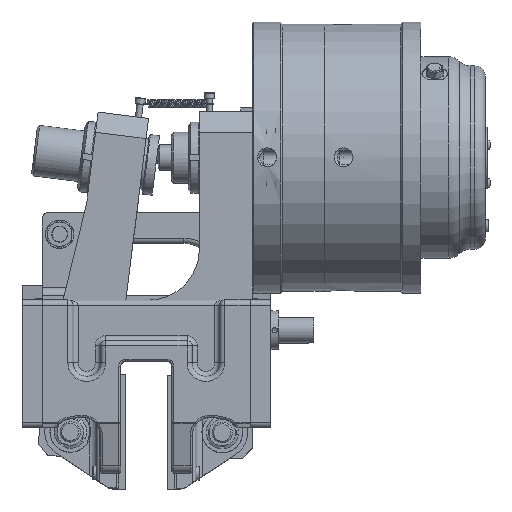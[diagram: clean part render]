
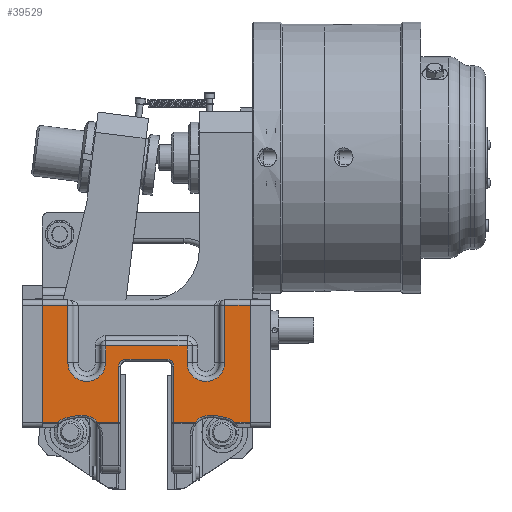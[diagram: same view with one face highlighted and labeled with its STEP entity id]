
A CAD part, top view. The second image highlights one B-rep face of the part: STEP entity #39529.
In plain terms, the highlighted planar face has unit normal (0, 0, 1).
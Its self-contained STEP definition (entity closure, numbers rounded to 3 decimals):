
#5074=LINE('',#64647,#7622);
#5076=LINE('',#64664,#7624);
#5079=LINE('',#64676,#7627);
#5081=LINE('',#64686,#7629);
#5083=LINE('',#64695,#7631);
#5084=LINE('',#64698,#7632);
#5086=LINE('',#64709,#7634);
#5117=LINE('',#64967,#7665);
#5118=LINE('',#64975,#7666);
#5119=LINE('',#64983,#7667);
#5125=LINE('',#65018,#7673);
#5126=LINE('',#65026,#7674);
#5130=LINE('',#65092,#7678);
#5142=LINE('',#65180,#7690);
#5143=LINE('',#65186,#7691);
#5144=LINE('',#65188,#7692);
#5145=LINE('',#65190,#7693);
#5146=LINE('',#65191,#7694);
#7622=VECTOR('',#50241,5.);
#7624=VECTOR('',#50261,10.);
#7627=VECTOR('',#50276,10.);
#7629=VECTOR('',#50288,10.);
#7631=VECTOR('',#50296,5.);
#7632=VECTOR('',#50299,10.);
#7634=VECTOR('',#50313,10.);
#7665=VECTOR('',#50446,10.);
#7666=VECTOR('',#50457,10.);
#7667=VECTOR('',#50468,10.);
#7673=VECTOR('',#50504,10.);
#7674=VECTOR('',#50507,10.);
#7678=VECTOR('',#50547,10.);
#7690=VECTOR('',#50581,10.);
#7691=VECTOR('',#50586,10.);
#7692=VECTOR('',#50589,10.);
#7693=VECTOR('',#50590,10.);
#7694=VECTOR('',#50591,10.);
#10096=FACE_OUTER_BOUND('',#12418,.T.);
#12418=EDGE_LOOP('',(#31009,#31010,#31011,#31012,#31013,#31014,#31015,#31016,
#31017,#31018,#31019,#31020,#31021,#31022,#31023,#31024,#31025,#31026,#31027,
#31028,#31029,#31030,#31031,#31032,#31033,#31034));
#14904=CIRCLE('',#42719,18.5);
#14913=CIRCLE('',#42734,18.5);
#14940=CIRCLE('',#42791,7.);
#14943=CIRCLE('',#42796,7.);
#14961=CIRCLE('',#42830,20.);
#14964=CIRCLE('',#42835,18.);
#14967=CIRCLE('',#42845,18.);
#14968=CIRCLE('',#42846,20.);
#18021=VERTEX_POINT('',#64644);
#18022=VERTEX_POINT('',#64646);
#18024=VERTEX_POINT('',#64652);
#18028=VERTEX_POINT('',#64663);
#18030=VERTEX_POINT('',#64669);
#18032=VERTEX_POINT('',#64678);
#18035=VERTEX_POINT('',#64688);
#18038=VERTEX_POINT('',#64693);
#18039=VERTEX_POINT('',#64697);
#18041=VERTEX_POINT('',#64703);
#18063=VERTEX_POINT('',#64962);
#18064=VERTEX_POINT('',#64966);
#18065=VERTEX_POINT('',#64970);
#18066=VERTEX_POINT('',#64974);
#18067=VERTEX_POINT('',#64978);
#18068=VERTEX_POINT('',#64982);
#18077=VERTEX_POINT('',#65011);
#18078=VERTEX_POINT('',#65016);
#18079=VERTEX_POINT('',#65020);
#18083=VERTEX_POINT('',#65086);
#18084=VERTEX_POINT('',#65090);
#18093=VERTEX_POINT('',#65175);
#18094=VERTEX_POINT('',#65182);
#18095=VERTEX_POINT('',#65183);
#18096=VERTEX_POINT('',#65185);
#18097=VERTEX_POINT('',#65189);
#22722=EDGE_CURVE('',#18021,#18022,#5074,.T.);
#22730=EDGE_CURVE('',#18022,#18028,#5076,.T.);
#22733=EDGE_CURVE('',#18028,#18030,#14904,.T.);
#22737=EDGE_CURVE('',#18030,#18024,#5079,.T.);
#22742=EDGE_CURVE('',#18024,#18032,#5081,.T.);
#22746=EDGE_CURVE('',#18038,#18035,#5083,.T.);
#22747=EDGE_CURVE('',#18032,#18039,#5084,.T.);
#22750=EDGE_CURVE('',#18039,#18041,#14913,.T.);
#22753=EDGE_CURVE('',#18041,#18038,#5086,.T.);
#22809=EDGE_CURVE('',#18063,#18064,#5117,.T.);
#22811=EDGE_CURVE('',#18064,#18065,#14940,.T.);
#22813=EDGE_CURVE('',#18065,#18066,#5118,.T.);
#22815=EDGE_CURVE('',#18066,#18067,#14943,.T.);
#22817=EDGE_CURVE('',#18067,#18068,#5119,.T.);
#22833=EDGE_CURVE('',#18078,#18077,#5125,.T.);
#22835=EDGE_CURVE('',#18079,#18063,#5126,.T.);
#22848=EDGE_CURVE('',#18083,#18079,#14961,.T.);
#22850=EDGE_CURVE('',#18084,#18083,#5130,.T.);
#22852=EDGE_CURVE('',#18077,#18084,#14964,.T.);
#22869=EDGE_CURVE('',#18068,#18093,#5142,.T.);
#22870=EDGE_CURVE('',#18094,#18095,#14967,.T.);
#22871=EDGE_CURVE('',#18096,#18094,#5143,.T.);
#22872=EDGE_CURVE('',#18093,#18096,#14968,.T.);
#22873=EDGE_CURVE('',#18078,#18035,#5144,.T.);
#22874=EDGE_CURVE('',#18021,#18097,#5145,.T.);
#22875=EDGE_CURVE('',#18095,#18097,#5146,.T.);
#31009=ORIENTED_EDGE('',*,*,#22870,.F.);
#31010=ORIENTED_EDGE('',*,*,#22871,.F.);
#31011=ORIENTED_EDGE('',*,*,#22872,.F.);
#31012=ORIENTED_EDGE('',*,*,#22869,.F.);
#31013=ORIENTED_EDGE('',*,*,#22817,.F.);
#31014=ORIENTED_EDGE('',*,*,#22815,.F.);
#31015=ORIENTED_EDGE('',*,*,#22813,.F.);
#31016=ORIENTED_EDGE('',*,*,#22811,.F.);
#31017=ORIENTED_EDGE('',*,*,#22809,.F.);
#31018=ORIENTED_EDGE('',*,*,#22835,.F.);
#31019=ORIENTED_EDGE('',*,*,#22848,.F.);
#31020=ORIENTED_EDGE('',*,*,#22850,.F.);
#31021=ORIENTED_EDGE('',*,*,#22852,.F.);
#31022=ORIENTED_EDGE('',*,*,#22833,.F.);
#31023=ORIENTED_EDGE('',*,*,#22873,.T.);
#31024=ORIENTED_EDGE('',*,*,#22746,.F.);
#31025=ORIENTED_EDGE('',*,*,#22753,.F.);
#31026=ORIENTED_EDGE('',*,*,#22750,.F.);
#31027=ORIENTED_EDGE('',*,*,#22747,.F.);
#31028=ORIENTED_EDGE('',*,*,#22742,.F.);
#31029=ORIENTED_EDGE('',*,*,#22737,.F.);
#31030=ORIENTED_EDGE('',*,*,#22733,.F.);
#31031=ORIENTED_EDGE('',*,*,#22730,.F.);
#31032=ORIENTED_EDGE('',*,*,#22722,.F.);
#31033=ORIENTED_EDGE('',*,*,#22874,.T.);
#31034=ORIENTED_EDGE('',*,*,#22875,.F.);
#37883=PLANE('',#42844);
#39529=ADVANCED_FACE('',(#10096),#37883,.T.);
#42719=AXIS2_PLACEMENT_3D('',#64670,#50267,#50268);
#42734=AXIS2_PLACEMENT_3D('',#64704,#50305,#50306);
#42791=AXIS2_PLACEMENT_3D('',#64971,#50451,#50452);
#42796=AXIS2_PLACEMENT_3D('',#64979,#50462,#50463);
#42830=AXIS2_PLACEMENT_3D('',#65088,#50541,#50542);
#42835=AXIS2_PLACEMENT_3D('',#65095,#50552,#50553);
#42844=AXIS2_PLACEMENT_3D('',#65181,#50582,#50583);
#42845=AXIS2_PLACEMENT_3D('',#65184,#50584,#50585);
#42846=AXIS2_PLACEMENT_3D('',#65187,#50587,#50588);
#50241=DIRECTION('',(1.,0.,0.));
#50261=DIRECTION('',(0.,-1.,0.));
#50267=DIRECTION('center_axis',(0.,0.,
1.));
#50268=DIRECTION('ref_axis',(0.,-1.,0.));
#50276=DIRECTION('',(0.,1.,0.));
#50288=DIRECTION('',(1.,0.,0.));
#50296=DIRECTION('',(1.,0.,0.));
#50299=DIRECTION('',(0.,-1.,0.));
#50305=DIRECTION('center_axis',(0.,0.,
1.));
#50306=DIRECTION('ref_axis',(0.,-1.,0.));
#50313=DIRECTION('',(0.,1.,0.));
#50446=DIRECTION('',(0.,1.,0.));
#50451=DIRECTION('center_axis',(0.,0.,
1.));
#50452=DIRECTION('ref_axis',(0.707,0.707,0.));
#50457=DIRECTION('',(-1.,0.,0.));
#50462=DIRECTION('center_axis',(0.,0.,
1.));
#50463=DIRECTION('ref_axis',(-0.707,0.707,0.));
#50468=DIRECTION('',(0.,-1.,0.));
#50504=DIRECTION('',(-1.,0.,0.));
#50507=DIRECTION('',(-1.,0.,0.));
#50541=DIRECTION('center_axis',(0.,0.,
1.));
#50542=DIRECTION('ref_axis',(-0.29,0.957,0.));
#50547=DIRECTION('',(-0.985,0.174,0.));
#50552=DIRECTION('center_axis',(0.,0.,
1.));
#50553=DIRECTION('ref_axis',(0.388,0.922,0.));
#50581=DIRECTION('',(-1.,0.,0.));
#50582=DIRECTION('center_axis',(0.,0.,
1.));
#50583=DIRECTION('ref_axis',(1.,0.,0.));
#50584=DIRECTION('center_axis',(0.,0.,
1.));
#50585=DIRECTION('ref_axis',(-0.388,0.922,0.));
#50586=DIRECTION('',(-0.985,-0.174,0.));
#50587=DIRECTION('center_axis',(0.,0.,
1.));
#50588=DIRECTION('ref_axis',(0.29,0.957,0.));
#50589=DIRECTION('',(0.,1.,0.));
#50590=DIRECTION('',(0.,-1.,0.));
#50591=DIRECTION('',(-1.,0.,0.));
#64644=CARTESIAN_POINT('',(-102.,165.,285.));
#64646=CARTESIAN_POINT('',(-77.,165.,285.));
#64647=CARTESIAN_POINT('',(102.,165.,285.));
#64652=CARTESIAN_POINT('',(-40.,125.,285.));
#64663=CARTESIAN_POINT('',(-77.,108.5,285.));
#64664=CARTESIAN_POINT('',(-77.,99.315,285.));
#64669=CARTESIAN_POINT('',(-40.,108.5,285.));
#64670=CARTESIAN_POINT('Origin',(-58.5,108.5,285.));
#64676=CARTESIAN_POINT('',(-40.,107.565,285.));
#64678=CARTESIAN_POINT('',(40.,125.,285.));
#64686=CARTESIAN_POINT('',(20.,125.,285.));
#64688=CARTESIAN_POINT('',(102.,165.,285.));
#64693=CARTESIAN_POINT('',(77.,165.,285.));
#64695=CARTESIAN_POINT('',(0.,165.,285.));
#64697=CARTESIAN_POINT('',(40.,108.5,285.));
#64698=CARTESIAN_POINT('',(40.,99.315,285.));
#64703=CARTESIAN_POINT('',(77.,108.5,285.));
#64704=CARTESIAN_POINT('Origin',(58.5,108.5,285.));
#64709=CARTESIAN_POINT('',(77.,127.565,285.));
#64962=CARTESIAN_POINT('',(27.,50.,285.));
#64966=CARTESIAN_POINT('',(27.,105.,285.));
#64967=CARTESIAN_POINT('',(27.,97.565,285.));
#64970=CARTESIAN_POINT('',(20.,112.,285.));
#64971=CARTESIAN_POINT('Origin',(20.,105.,285.));
#64974=CARTESIAN_POINT('',(-20.,112.,285.));
#64975=CARTESIAN_POINT('',(-10.,112.,285.));
#64978=CARTESIAN_POINT('',(-27.,105.,285.));
#64979=CARTESIAN_POINT('Origin',(-20.,105.,285.));
#64982=CARTESIAN_POINT('',(-27.,50.,285.));
#64983=CARTESIAN_POINT('',(-27.,45.065,285.));
#65011=CARTESIAN_POINT('',(86.95,50.,285.));
#65016=CARTESIAN_POINT('',(102.,50.,285.));
#65018=CARTESIAN_POINT('',(-102.,50.,285.));
#65020=CARTESIAN_POINT('',(47.801,50.,285.));
#65026=CARTESIAN_POINT('',(-102.,50.,285.));
#65086=CARTESIAN_POINT('',(66.478,56.695,285.));
#65088=CARTESIAN_POINT('Origin',(63.,37.,285.));
#65090=CARTESIAN_POINT('',(77.63,54.726,285.));
#65092=CARTESIAN_POINT('',(31.381,62.893,285.));
#65095=CARTESIAN_POINT('Origin',(74.5,37.,285.));
#65175=CARTESIAN_POINT('',(-47.801,50.,285.));
#65180=CARTESIAN_POINT('',(-102.,50.,285.));
#65181=CARTESIAN_POINT('Origin',(0.,90.129,285.));
#65182=CARTESIAN_POINT('',(-77.63,54.726,285.));
#65183=CARTESIAN_POINT('',(-86.95,50.,285.));
#65184=CARTESIAN_POINT('Origin',(-74.5,37.,285.));
#65185=CARTESIAN_POINT('',(-66.478,56.695,285.));
#65186=CARTESIAN_POINT('',(-36.958,61.909,285.));
#65187=CARTESIAN_POINT('Origin',(-63.,37.,285.));
#65188=CARTESIAN_POINT('',(102.,170.,285.));
#65189=CARTESIAN_POINT('',(-102.,50.,285.));
#65190=CARTESIAN_POINT('',(-102.,45.,285.));
#65191=CARTESIAN_POINT('',(-102.,50.,285.));
